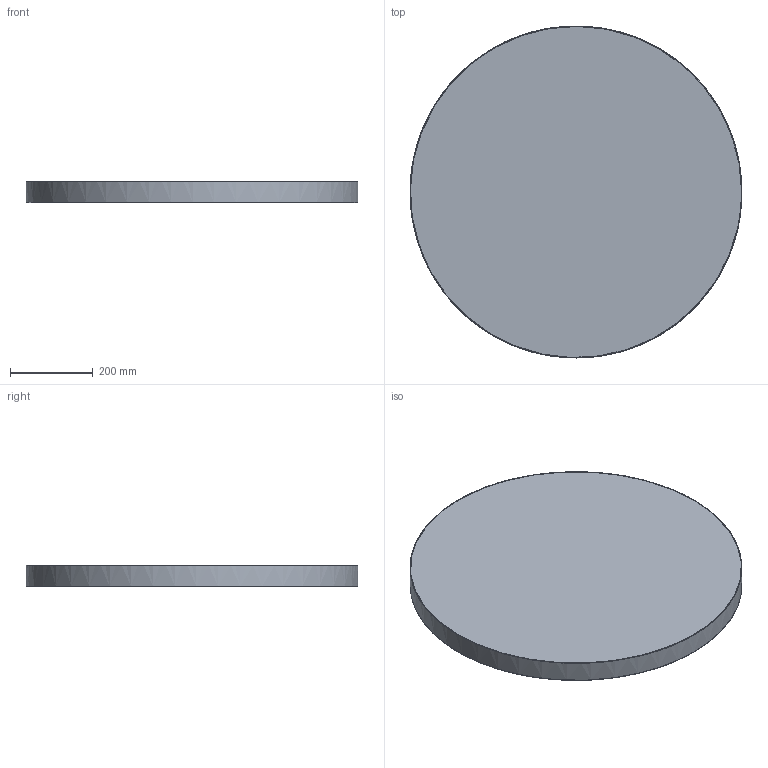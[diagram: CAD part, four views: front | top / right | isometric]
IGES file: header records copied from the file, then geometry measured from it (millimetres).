
Global section: file name: C:\Users\EQUIPO\Desktop\COLECCIONES ACB MODELADAS 3D OK\LONDON\london-3760-80-led (IGES).igs; native system: Rhinoceros ( Oct  8 2013 ); preprocessor: Trout Lake IGES 012 Oct  8 2013; date: 190207.115102; units: millimetre
Bounding box: 799.93 x 800 x 50.76 mm (x, y, z)
Surface area: 2331324.9 mm2 (no closed solid volume)
Topology: 0 solids, 0 shells, 12 faces, 207 edges, 203 vertices
Faces by surface type: bspline 12
